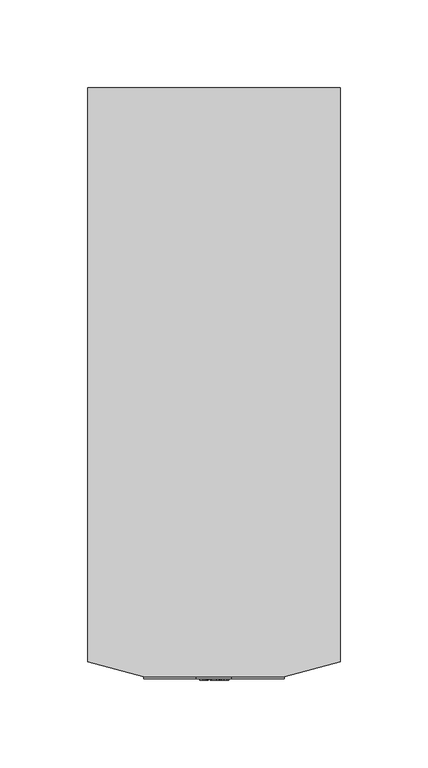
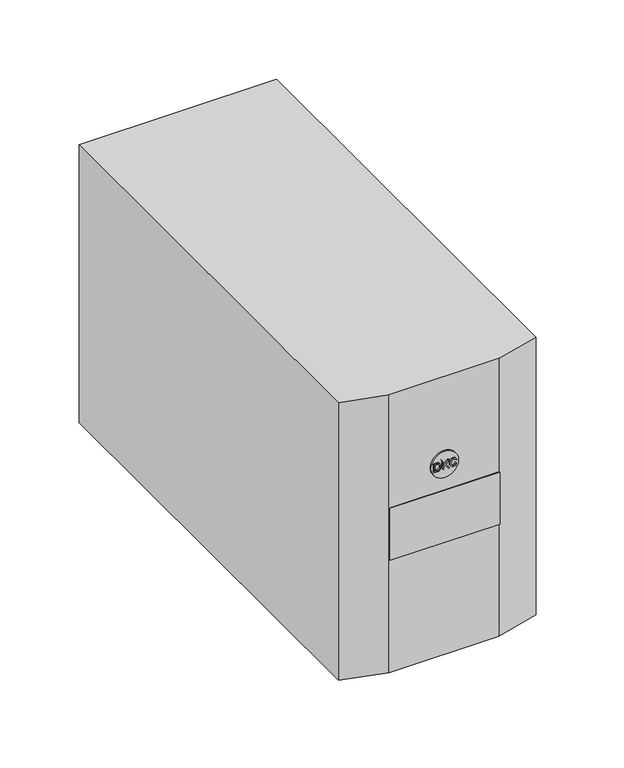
"""IFC4 building model written with IfcOpenShell, lengths in millimetres: proxy geometry, НВО_КНС_БатарейныйБлокBPSMLT_DKC : BPSMLT1-36V."""

from ifc_helpers import new_model, si_unit, point, frame, frame_2d, origin, origin_with_axes, place, context, project, spatial, polyline, circle_curve, trimmed, segment, composite_curve, outline, extrude, source, transform, mapped, element, save


def electrical_equipment_fbf8d0cd(model_context):
    return source(origin(), model_context, "Body", "SweptSolid", [
        extrude(outline(polyline([(144.0, -8.1463789), (144.0, -5.967046), (144.103007, -4.9980448), (144.9520786, -3.7273804), (145.829845, -3.3153525), (147.0460629, -3.154956), (148.4793312, -3.391872), (149.5094008, -4.1055631), (149.9405585, -4.9914229), (150.0273786, -6.0671099), (150.0273786, -8.1463789), (144.0, -8.1463789)]), holes=[polyline([(144.7534223, -7.3929566), (149.2739563, -7.3929566), (149.2739563, -6.0803536), (149.153291, -5.0120243), (148.4852173, -4.2299072), (147.0578351, -3.9083783), (145.9181367, -4.0724537), (144.8623154, -5.0900153), (144.7534223, -6.0597522), (144.7534223, -7.3929566)])]), frame((0.0, -2.0, 0.0), z_axis=(0.0, 1.0, 0.0), x_axis=(0.0, 0.0, 1.0)), (0.0, 0.0, 1.0), 6.0),
        extrude(outline(polyline([(144.0, -1.7422891), (146.0719114, -1.365578), (147.0401768, -0.3502237), (144.0, 1.9512461), (144.0, 2.8724226), (147.5493255, 0.183941), (150.0273786, 2.7782448), (150.0273786, 1.7246308), (147.076965, -1.365578), (150.0273786, -2.1190003), (144.0, -1.7422891)])), frame((0.0, -2.0, 0.0), z_axis=(0.0, 1.0, 0.0), x_axis=(0.0, 0.0, 1.0)), (0.0, 0.0, 1.0), 6.0),
        extrude(outline(polyline([(146.1425447, 7.6754899), (145.0330126, 7.036111), (144.6592445, 5.8831689), (144.9336845, 4.8435343), (145.7628905, 4.1357294), (147.0607782, 3.9083783), (148.180611, 4.1004127), (149.0458694, 4.7662791), (149.3681341, 5.944973), (149.0775073, 6.9632704), (148.3307068, 8.3347345), (149.652139, 7.4834555), (150.1215564, 5.9744036), (149.7588248, 4.5264201), (148.6971173, 3.5118015), (147.0593067, 3.154956), (145.4479835, 3.4705987), (144.3016632, 4.3903037), (143.9058222, 5.9582168), (144.4289504, 7.5356948), (146.1425447, 7.6754899)])), frame((0.0, -2.0, 0.0), z_axis=(0.0, 1.0, 0.0), x_axis=(0.0, 0.0, 1.0)), (0.0, 0.0, 1.0), 6.0),
        extrude(outline(composite_curve([segment(trimmed(circle_curve(frame_2d((147.0, 0.0)), 10.0), [point((147.0, -10.0))], [point((147.0, 10.0))], False, "CARTESIAN"), True, "CONTINUOUS"), segment(trimmed(circle_curve(frame_2d((147.0, 0.0)), 10.0), [point((147.0, 10.0))], [point((147.0, -10.0))], False, "CARTESIAN"), True, "CONTINUOUS")], self_intersect=False)), frame((0.0, -1.0, 0.0), z_axis=(0.0, 1.0, 0.0), x_axis=(0.0, 0.0, 1.0)), (0.0, 0.0, 1.0), 10.0),
        extrude(outline(polyline([(-72.0, 336.0), (72.0, 336.0), (72.0, 8.5743742), (40.0, 0.0), (-40.0, 0.0), (-72.0, 8.5743742), (-72.0, 336.0)])), origin_with_axes(), (0.0, 0.0, 1.0), 214.0),
        extrude(outline(polyline([(40.0, -1.0), (-40.0, -1.0), (-40.0, 0.0), (40.0, 0.0), (40.0, -1.0)])), frame((0.0, 0.0, 87.0), z_axis=(0.0, 0.0, 1.0), x_axis=(1.0, 0.0, 0.0)), (0.0, 0.0, 1.0), 40.0),
    ])


if __name__ == "__main__":
    model = new_model("IFC4")
    model_context = context("Model", 3, world=origin())
    ifc_project = project(units=[si_unit("LENGTHUNIT", "METRE", prefix="MILLI")], contexts=[model_context])
    site = spatial("IfcSite", under=ifc_project)
    building = spatial("IfcBuilding", under=site)
    placement = place(None, origin())
    electrical_equipment_shape = electrical_equipment_fbf8d0cd(model_context)
    element("IfcBuildingElementProxy", 1, Name="НВО_КНС_БатарейныйБлокBPSMLT_DKC : BPSMLT1-36V", ObjectType="НВО_КНС_БатарейныйБлокBPSMLT_DKC : BPSMLT1-36V", at=placement, inside=building, context=model_context, shape_type="MappedRepresentation", body=[
        mapped(electrical_equipment_shape, transform((0.0, 0.0, 0.0), x_axis=(1.0, 0.0, 0.0), y_axis=(0.0, 1.0, 0.0), z_axis=(0.0, 0.0, 1.0))),
    ])
    save(model, "model.ifc")
